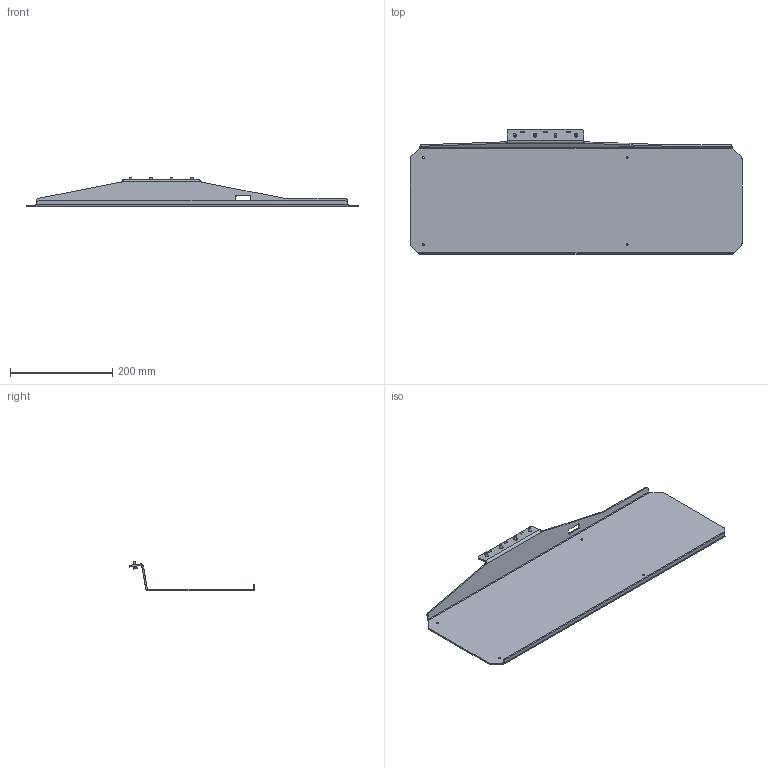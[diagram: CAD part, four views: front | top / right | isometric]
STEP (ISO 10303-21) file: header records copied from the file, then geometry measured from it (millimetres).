
FILE_DESCRIPTION(/* description */ ('-'),/* implementation_level */ '2;1');
FILE_NAME(/* name */ 'C:\Export\0000003729.stp',/* time_stamp */ '2021-07-07T11:41:00+02:00',/* author */ ('-'),/* organization */ ('(c) Beckhoff Automation GmbH & Co. KG, 33415 Verl'),/* preprocessor_version */ 'ST-DEVELOPER v18.1',/* originating_system */ 'Autodesk Inventor 2020',/* authorisation */ '-');
FILE_SCHEMA (('AUTOMOTIVE_DESIGN { 1 0 10303 214 3 1 1 }'));
Length unit declared in the file: millimetre
Products named in the file (3): C9900-M801_Tastaturablage; 221933; ISO 4762  - M5 x 10 - A2
Assembly tree (5 placements, depth 2):
  C9900-M801_Tastaturablage
    221933
    ISO 4762  - M5 x 10 - A2  x4
Bounding box: 650 x 245.67 x 58.65 mm (x, y, z)
Volume: 493195.8 mm3; surface area: 335459.9 mm2
Topology: 5 solids, 5 shells, 156 faces, 426 edges, 284 vertices
Faces by surface type: plane 81, cylinder 53, torus 8, cone 8, bspline 6
Full cylindrical faces by diameter (mm): 3.8 x4, 5 x4, 8.5 x4
Entity records: 3840 total; most frequent: CARTESIAN_POINT 830, DIRECTION 608, ORIENTED_EDGE 604, EDGE_CURVE 302, AXIS2_PLACEMENT_3D 212, VERTEX_POINT 197, LINE 184, VECTOR 184
